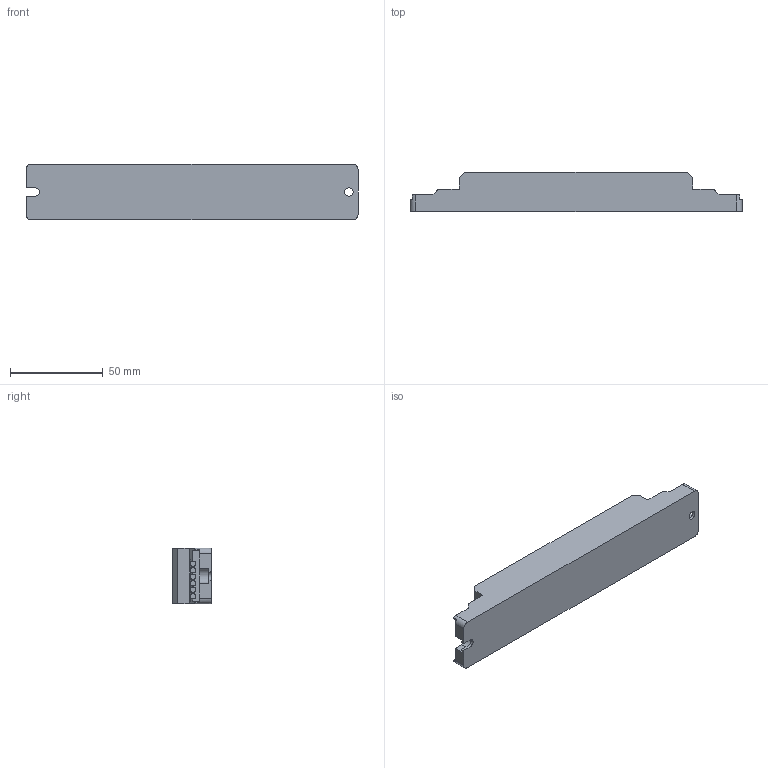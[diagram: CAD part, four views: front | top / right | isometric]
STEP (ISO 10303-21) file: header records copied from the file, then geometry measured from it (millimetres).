
FILE_DESCRIPTION((''),'2;1');
FILE_NAME('09812965Z','2019-04-09T15:24:20',('torbenh'),(''),'CREO PARAMETRIC BY PTC INC, 2017380','CREO PARAMETRIC BY PTC INC, 2017380','');
FILE_SCHEMA(('AUTOMOTIVE_DESIGN { 1 0 10303 214 1 1 1 1 }'));
Length unit declared in the file: millimetre
Products named in the file (1): 09812965Z
Bounding box: 179 x 21 x 30 mm (x, y, z)
Volume: 92318.9 mm3; surface area: 19022.4 mm2
Topology: 1 solids, 1 shells, 164 faces, 432 edges, 284 vertices
Faces by surface type: plane 107, cylinder 57
Entity records: 6830 total; most frequent: CARTESIAN_POINT 990, DIRECTION 866, ORIENTED_EDGE 864, PRESENTATION_STYLE_ASSIGNMENT 433, STYLED_ITEM 433, CURVE_STYLE 432, EDGE_CURVE 432, AXIS2_PLACEMENT_3D 294
